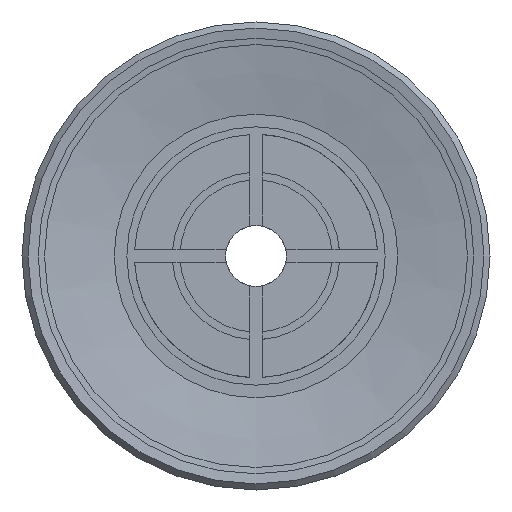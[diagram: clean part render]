
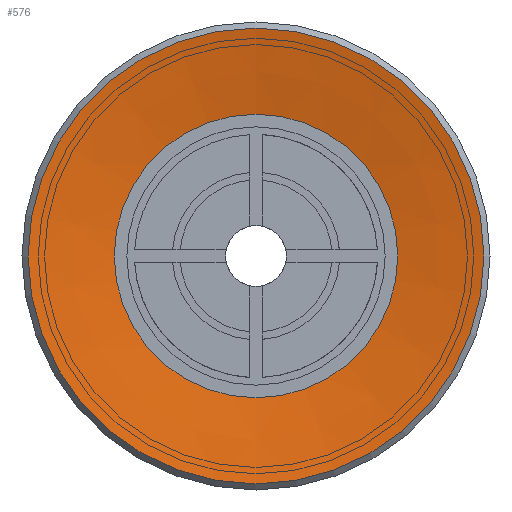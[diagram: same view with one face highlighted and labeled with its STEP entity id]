
A CAD part, front view. The second image highlights one B-rep face of the part: STEP entity #576.
In plain terms, the highlighted conical face has half-angle 80 degrees and reference radius 4.664 mm.
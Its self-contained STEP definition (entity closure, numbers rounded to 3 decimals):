
#576=ADVANCED_FACE('',(#895,#896),#897,.F.);
#895=FACE_BOUND('',#1260,.T.);
#896=FACE_OUTER_BOUND('',#1261,.T.);
#897=CONICAL_SURFACE('',#1262,4.664,1.396);
#1260=EDGE_LOOP('',(#2167));
#1261=EDGE_LOOP('',(#2168));
#1262=AXIS2_PLACEMENT_3D('',#2169,#2170,#2171);
#2167=ORIENTED_EDGE('',*,*,#2576,.F.);
#2168=ORIENTED_EDGE('',*,*,#2593,.T.);
#2169=CARTESIAN_POINT('',(0.0,0.5,0.0));
#2170=DIRECTION('',(-0.0,-1.0,0.));
#2171=DIRECTION('',(0.0,0.,-1.0));
#2576=EDGE_CURVE('',#3018,#3018,#3019,.T.);
#2593=EDGE_CURVE('',#3041,#3041,#3042,.T.);
#3018=VERTEX_POINT('',#3916);
#3019=CIRCLE('',#3917,4.664);
#3041=VERTEX_POINT('',#3962);
#3042=CIRCLE('',#3963,7.5);
#3916=CARTESIAN_POINT('',(0.0,0.5,-4.664));
#3917=AXIS2_PLACEMENT_3D('',#4392,#4393,#4394);
#3962=CARTESIAN_POINT('',(0.0,0.,-7.5));
#3963=AXIS2_PLACEMENT_3D('',#4428,#4429,#4430);
#4392=CARTESIAN_POINT('',(0.0,0.5,0.0));
#4393=DIRECTION('',(0.0,-1.0,0.));
#4394=DIRECTION('',(0.0,0.,-1.0));
#4428=CARTESIAN_POINT('',(0.0,0.0,0.0));
#4429=DIRECTION('',(0.0,-1.0,0.));
#4430=DIRECTION('',(0.0,0.,-1.0));
